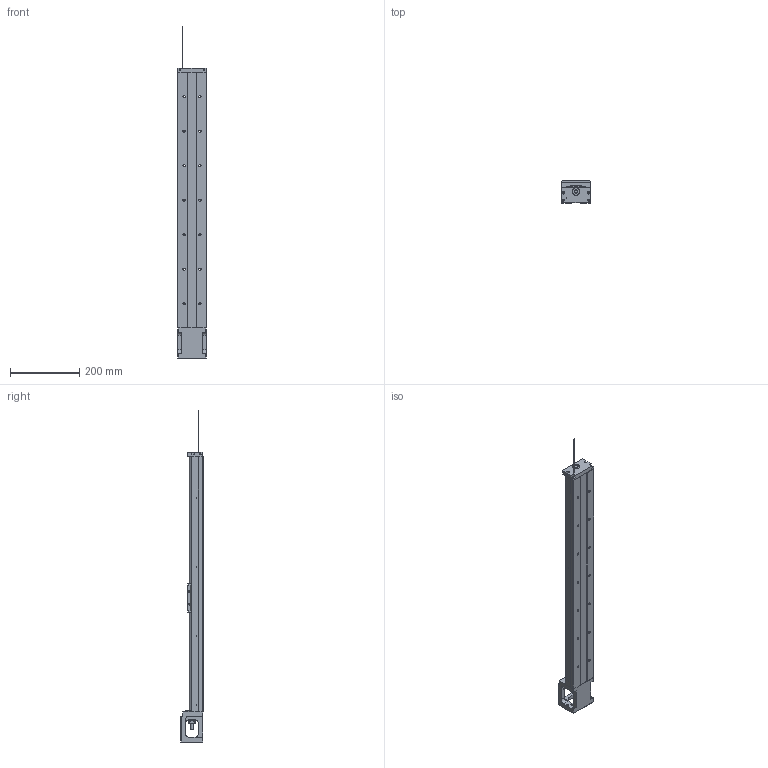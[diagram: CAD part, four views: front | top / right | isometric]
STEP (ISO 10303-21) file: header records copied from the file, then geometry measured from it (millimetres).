
FILE_DESCRIPTION(/* description */ (''),/* implementation_level */ '2;1');
FILE_NAME(/* name */ '46S-740low.stp',/* time_stamp */ '2018-02-12T11:43:51+08:00',/* author */ (''),/* organization */ (''),/* preprocessor_version */ 'ST-DEVELOPER v11',/* originating_system */ 'SIEMENS UGS NX 6.0',/* authorisation */ '');
FILE_SCHEMA (('AUTOMOTIVE_DESIGN { 1 0 10303 214 1 1 1 1 }'));
Length unit declared in the file: millimetre
Products named in the file (1): 3.069
Bounding box: 86 x 64 x 961.69 mm (x, y, z)
Volume: 1611098.5 mm3; surface area: 354986.1 mm2
Topology: 5 solids, 16 shells, 636 faces, 1685 edges, 1112 vertices
Faces by surface type: plane 286, cylinder 234, cone 58, bspline 50, torus 8
Full cylindrical faces by diameter (mm): 2 x2, 2.11 x2, 2.15 x8, 2.42 x6, 3 x4, 3.2 x4, 3.3 x6, 3.4 x8, 4 x2, 4.2 x4, 4.5 x8, 5 x6, 6 x8, 6.35 x2, 6.6 x14, 6.7 x2, 8 x1, 8.7 x4, 9.6 x1, 10 x3, 11 x14, 12 x1, 14.95 x2, 15 x1, 16 x2, 22 x3, 27.5 x1, 44 x1, 50 x1
Entity records: 31735 total; most frequent: CARTESIAN_POINT 12875, ORIENTED_EDGE 2880, DIRECTION 2748, EDGE_CURVE 1440, VERTEX_POINT 1039, AXIS2_PLACEMENT_3D 1035, EDGE_LOOP 903, LINE 678
